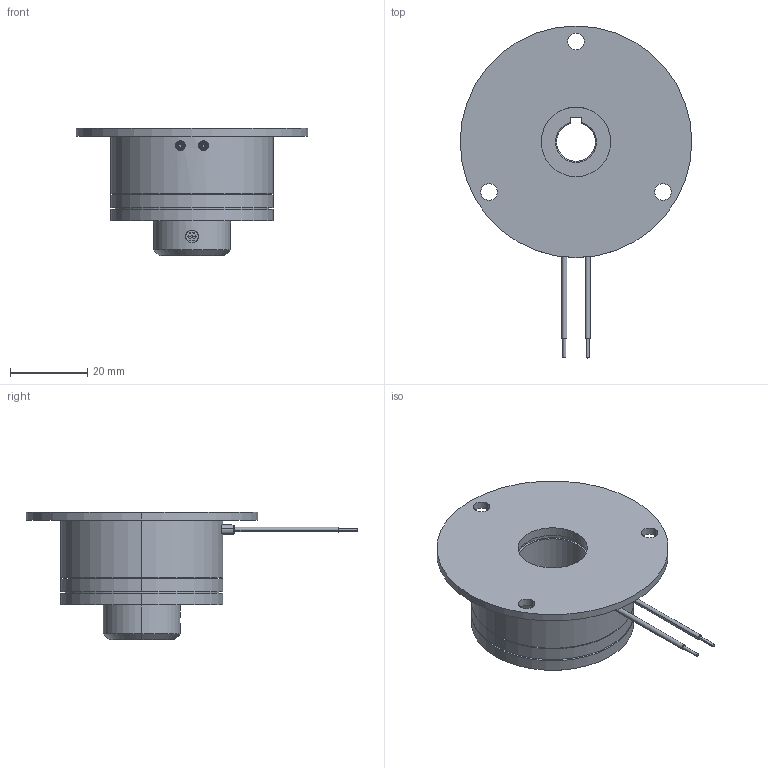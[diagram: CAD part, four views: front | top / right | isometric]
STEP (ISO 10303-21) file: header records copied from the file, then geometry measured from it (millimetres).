
FILE_DESCRIPTION (( 'STEP AP214' ), '1' );
FILE_NAME ('dr_bk_0402-130_mu.STEP', '2021-11-10T09:55:24', ( '' ), ( '' ), 'SwSTEP 2.0', 'SolidWorks 2019', '' );
FILE_SCHEMA (( 'AUTOMOTIVE_DESIGN' ));
Length unit declared in the file: millimetre
Products named in the file (12): 10068768_000; 10068686_000; 10068765_000; 10068760_000; 10068764_000_Eingebaut in 0402020-; 10068758_000_genietet (2,45mm Klemml„nge); 10068769_000; 10068761_000; 10068766_000; 10068767_000_M 4 x 4; 10068762_000; dr_bk_0402-130_mu
Assembly tree (15 placements, depth 4):
  dr_bk_0402-130_mu
    10068686_000
    10068769_000
      10068768_000
      10068761_000
        10068762_000
        10068765_000
        10068766_000  x2
        10068758_000_genietet (2,45mm Klemml„nge)  x2
      10068764_000_Eingebaut in 0402020-  x2
      10068760_000  x2
      10068767_000_M 4 x 4
Bounding box: 60 x 86 x 33 mm (x, y, z)
Volume: 31640 mm3; surface area: 18401.1 mm2
Topology: 15 solids, 15 shells, 258 faces, 564 edges, 343 vertices
Faces by surface type: cylinder 121, cone 60, plane 49, torus 20, sphere 8
Entity records: 7321 total; most frequent: CARTESIAN_POINT 1229, DIRECTION 1146, ORIENTED_EDGE 900, AXIS2_PLACEMENT_3D 486, EDGE_CURVE 450, VERTEX_POINT 279, EDGE_LOOP 263, CIRCLE 260
